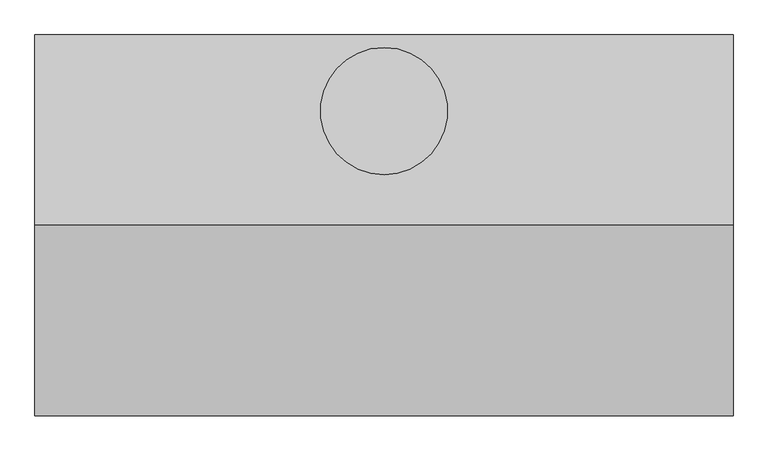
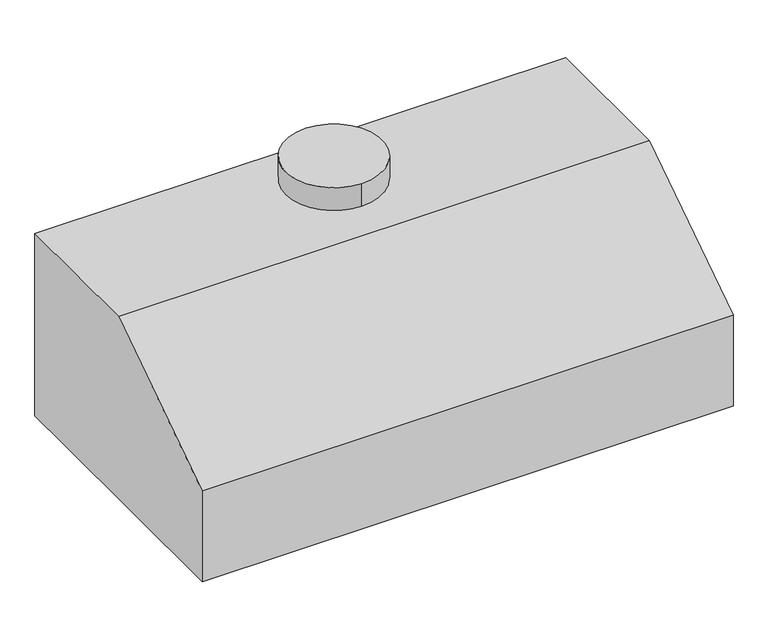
"""IFC4 building model written with IfcOpenShell, lengths in millimetres: air terminal geometry, BL_ЗонтВытяжной_Пристенный_ЗВП : BL_ЗонтВытяжной_Пристенный_ЗВП."""

from ifc_helpers import new_model, si_unit, point, frame, frame_2d, origin, place, context, project, spatial, circle_curve, trimmed, segment, composite_curve, outline, extrude, faceted_brep, source, transform, mapped, element, save


def air_terminal_818791bf(model_context):
    return source(origin(), model_context, "Body", "SolidModel", [
        faceted_brep([(550.0, -300.0, 400.0), (550.0, -600.0, 200.0), (550.0, -600.0, 0.0), (550.0, -100.0, 0.0), (550.0, 0.0, 0.0), (550.0, 0.0, 400.0), (-550.0, -300.0, 400.0), (-550.0, 0.0, 400.0), (-550.0, 0.0, 0.0), (-550.0, -100.0, 0.0), (-550.0, -600.0, 0.0), (-550.0, -600.0, 200.0), (-530.0, -100.0, 0.0), (-530.0, -580.0, 0.0), (530.0, -580.0, 0.0), (530.0, -100.0, 0.0), (530.0, -280.0, 380.0), (530.0, -580.0, 180.0), (-530.0, -280.0, 380.0), (-530.0, -580.0, 180.0)], [[[0, 1, 2, 3, 4, 5]], [[6, 7, 8, 9, 10, 11]], [[1, 0, 6, 11]], [[2, 1, 11, 10]], [[3, 2, 10, 9, 12, 13, 14, 15]], [[4, 3, 15, 12, 9, 8]], [[5, 4, 8, 7]], [[0, 5, 7, 6]], [[16, 15, 14, 17]], [[18, 19, 13, 12]], [[15, 16, 18, 12]], [[16, 17, 19, 18]], [[17, 14, 13, 19]]]),
        extrude(outline(composite_curve([segment(trimmed(circle_curve(frame_2d((0.0, -120.0)), 100.0), [point((0.0, -220.0))], [point((0.0, -20.0))], False, "CARTESIAN"), True, "CONTINUOUS"), segment(trimmed(circle_curve(frame_2d((0.0, -120.0)), 100.0), [point((0.0, -20.0))], [point((0.0, -220.0))], False, "CARTESIAN"), True, "CONTINUOUS")], self_intersect=False)), frame((0.0, 0.0, 400.0), z_axis=(0.0, 0.0, 1.0), x_axis=(1.0, 0.0, 0.0)), (0.0, 0.0, 1.0), 50.0),
    ])


if __name__ == "__main__":
    model = new_model("IFC4")
    model_context = context("Model", 3, world=origin())
    ifc_project = project(units=[si_unit("LENGTHUNIT", "METRE", prefix="MILLI")], contexts=[model_context])
    site = spatial("IfcSite", under=ifc_project)
    building = spatial("IfcBuilding", under=site)
    placement = place(None, origin())
    air_terminal_shape = air_terminal_818791bf(model_context)
    element("IfcAirTerminal", 1, ObjectType="BL_ЗонтВытяжной_Пристенный_ЗВП : BL_ЗонтВытяжной_Пристенный_ЗВП", at=placement, inside=building, context=model_context, shape_type="MappedRepresentation", body=[
        mapped(air_terminal_shape, transform((0.0, 0.0, 0.0), x_axis=(1.0, 0.0, 0.0), y_axis=(0.0, 1.0, 0.0), z_axis=(0.0, 0.0, 1.0))),
    ])
    save(model, "model.ifc")
